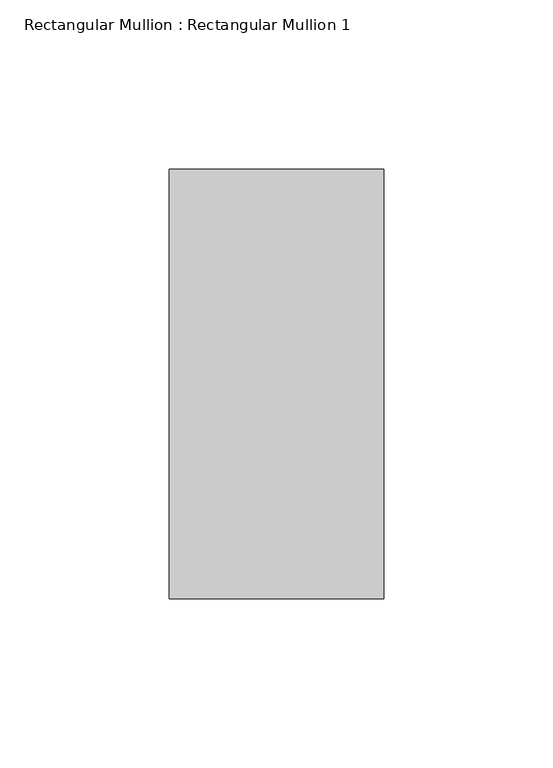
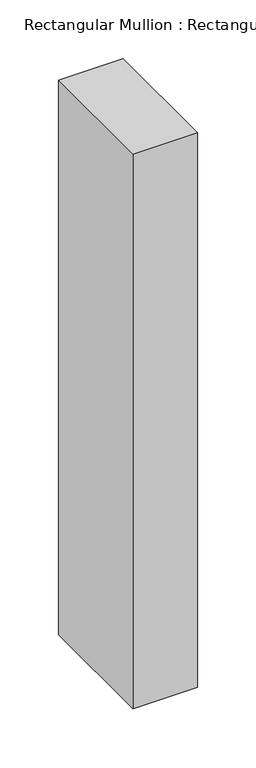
"""IFC4 building model written with IfcOpenShell, lengths in millimetres: member geometry, Rectangular Mullion : Rectangular Mullion 1."""

import ifcopenshell
import ifcopenshell.guid

model = None  # the IFC model being written
_history = None  # IfcOwnerHistory: only IFC2X3 demands one
_inside = {}  # id of a spatial element -> (the spatial element, [elements in it])
_under = {}  # id of a project, library or spatial element -> (it, [spatial elements below it])
_declared = {}  # id of a project -> (the project, [libraries it declares])
_typed = {}  # id of a type object -> (the type object, [elements of that type])
_made_of = {}  # id of a material, layer set ... -> (it, [elements and type objects made of it])


def new_model(schema):
    """Start an empty IFC model of exactly this schema.

    Asked for "IFC4X3", IfcOpenShell would pick the latest addendum, in which some entities
    have other attributes; the version numbers below select the first issue.
    IFC2X3 requires an IfcOwnerHistory on every rooted entity: one is made here for all.
    """
    global model, _history
    if schema == "IFC4X3":
        model = ifcopenshell.file(schema_version=(4, 3, 0, 0))
    else:
        model = ifcopenshell.file(schema=schema)
    _inside.clear()
    _under.clear()
    _declared.clear()
    _typed.clear()
    _made_of.clear()
    _history = None
    if model.schema == "IFC2X3":
        org = make("IfcOrganization", Name="unknown")
        user = make(
            "IfcPersonAndOrganization",
            ThePerson=make("IfcPerson", FamilyName="unknown"),
            TheOrganization=org,
        )
        app = make(
            "IfcApplication",
            ApplicationDeveloper=org,
            Version="unknown",
            ApplicationFullName="unknown",
            ApplicationIdentifier="unknown",
        )
        _history = make(
            "IfcOwnerHistory",
            OwningUser=user,
            OwningApplication=app,
            ChangeAction="ADDED",
            CreationDate=0,
        )
    return model


def make(cls, **values):
    """One entity of the class cls with the attributes given. An attribute that is None is left unset."""
    return model.create_entity(
        cls, **{name: value for name, value in values.items() if value is not None}
    )


def rooted(cls, **values):
    """An entity with a GlobalId (a new one), such as an element, a storey or a relation."""
    return make(cls, GlobalId=ifcopenshell.guid.new(), OwnerHistory=_history, **values)


def si_unit(unit_type, name, prefix=None):
    """IfcSIUnit, for example si_unit("LENGTHUNIT", "METRE", prefix="MILLI")."""
    return make("IfcSIUnit", UnitType=unit_type, Prefix=prefix, Name=name)


def assignment(units):
    """IfcUnitAssignment: the units of a project."""
    return None if units is None else make("IfcUnitAssignment", Units=units)


def point(xyz):
    """IfcCartesianPoint."""
    return None if xyz is None else make("IfcCartesianPoint", Coordinates=xyz)


def direction(xyz):
    """IfcDirection."""
    return None if xyz is None else make("IfcDirection", DirectionRatios=xyz)


def frame(location, z_axis=None, x_axis=None):
    """IfcAxis2Placement3D, a coordinate frame: its origin and axes. An axis left out is left unset."""
    return make(
        "IfcAxis2Placement3D",
        Location=point(location),
        Axis=direction(z_axis),
        RefDirection=direction(x_axis),
    )


def origin():
    """The frame at (0, 0, 0) with its axes left unset."""
    return frame((0.0, 0.0, 0.0))


def place(relative_to, where):
    """IfcLocalPlacement: puts the frame where relative to a parent placement (None: the world)."""
    return make(
        "IfcLocalPlacement", PlacementRelTo=relative_to, RelativePlacement=where
    )


def context(
    kind, dimensions, precision=None, world=None, true_north=None, identifier=None
):
    """IfcGeometricRepresentationContext, for example the 3D "Model" context."""
    return make(
        "IfcGeometricRepresentationContext",
        ContextIdentifier=identifier,
        ContextType=kind,
        CoordinateSpaceDimension=dimensions,
        Precision=precision,
        WorldCoordinateSystem=world,
        TrueNorth=true_north,
    )


def project(units=None, contexts=None):
    """IfcProject with its units and contexts."""
    return rooted(
        "IfcProject",
        Name="project",
        RepresentationContexts=contexts,
        UnitsInContext=assignment(units),
    )


def spatial(cls, under=None, at=None, **own):
    """A site, building, storey or space (cls), placed at a placement, below another one or the project."""
    s = rooted(cls, ObjectPlacement=at, **own)
    if under is not None:
        _under.setdefault(under.id(), (under, []))[1].append(s)
    return s


def polyline(points):
    """IfcPolyline through the points."""
    return make("IfcPolyline", Points=[point(p) for p in points])


def outline(outer, holes=None, kind="AREA"):
    """IfcArbitraryClosedProfileDef: a profile drawn as a closed curve; with holes, ...WithVoids."""
    if holes is None:
        return make("IfcArbitraryClosedProfileDef", ProfileType=kind, OuterCurve=outer)
    return make(
        "IfcArbitraryProfileDefWithVoids",
        ProfileType=kind,
        OuterCurve=outer,
        InnerCurves=holes,
    )


def extrude(swept, where, along, depth):
    """IfcExtrudedAreaSolid: the profile swept, set in the frame where, extruded along a direction by depth."""
    return make(
        "IfcExtrudedAreaSolid",
        SweptArea=swept,
        Position=where,
        ExtrudedDirection=direction(along),
        Depth=depth,
    )


def shape(context_of_items, identifier, shape_type, items):
    """IfcShapeRepresentation: the items that make up one representation, for example the "Body"."""
    return make(
        "IfcShapeRepresentation",
        ContextOfItems=context_of_items,
        RepresentationIdentifier=identifier,
        RepresentationType=shape_type,
        Items=items,
    )


def source(mapping_origin, context_of_items, identifier, shape_type, items):
    """IfcRepresentationMap: a shape defined once, which mapped items show again and again."""
    return make(
        "IfcRepresentationMap",
        MappingOrigin=mapping_origin,
        MappedRepresentation=shape(context_of_items, identifier, shape_type, items),
    )


def transform(
    local_origin,
    x_axis=None,
    y_axis=None,
    z_axis=None,
    scale=None,
    scale2=None,
    scale3=None,
    uniform=True,
):
    """IfcCartesianTransformationOperator3D, or its non-uniform kind. x_axis, y_axis, z_axis: its Axis1, 2, 3."""
    if uniform:
        return make(
            "IfcCartesianTransformationOperator3D",
            Axis1=direction(x_axis),
            Axis2=direction(y_axis),
            LocalOrigin=point(local_origin),
            Scale=scale,
            Axis3=direction(z_axis),
        )
    return make(
        "IfcCartesianTransformationOperator3DnonUniform",
        Axis1=direction(x_axis),
        Axis2=direction(y_axis),
        LocalOrigin=point(local_origin),
        Scale=scale,
        Axis3=direction(z_axis),
        Scale2=scale2,
        Scale3=scale3,
    )


def mapped(mapping_source, mapping_target):
    """IfcMappedItem: shows the shape of a source again, moved by a transform."""
    return make(
        "IfcMappedItem", MappingSource=mapping_source, MappingTarget=mapping_target
    )


def made_of(thing, what):
    """Note that an element or type object is made of a material, layer set ...; save() writes the relation."""
    if what is not None:
        _made_of.setdefault(what.id(), (what, []))[1].append(thing)
    return thing


def element(
    cls,
    number,
    at=None,
    inside=None,
    cuts=None,
    type_object=None,
    material=None,
    context=None,
    identifier="Body",
    shape_type=None,
    held_by="IfcProductDefinitionShape",
    body=None,
    shapes=None,
    **own,
):
    """One element of the class cls, such as IfcWall. Its Tag is "e" and its number.

    at: its placement. inside: the storey or other place that contains it. cuts: it is an
    opening in that element (IfcRelVoidsElement). A single representation is given by context,
    identifier, shape_type and body (its items); several are given by shapes. held_by: the class
    of the entity that holds the representations. save() writes the other relations.
    """
    e = rooted(cls, Tag="e%d" % number, ObjectPlacement=at, **own)
    if body is not None:
        shapes = [shape(context, identifier, shape_type, body)]
    if shapes is not None:
        e.Representation = make(held_by, Representations=shapes)
    if inside is not None:
        _inside.setdefault(inside.id(), (inside, []))[1].append(e)
    if cuts is not None:
        rooted(
            "IfcRelVoidsElement", RelatingBuildingElement=cuts, RelatedOpeningElement=e
        )
    if type_object is not None:
        _typed.setdefault(type_object.id(), (type_object, []))[1].append(e)
    return made_of(e, material)


def aggregate(whole, parts):
    """IfcRelAggregates: a whole, such as a stair, and the parts it consists of."""
    return rooted("IfcRelAggregates", RelatingObject=whole, RelatedObjects=parts)


def save(model, path):
    """Write the relations noted so far, then the file.

    IfcRelAggregates (storeys below a building ...), IfcRelContainedInSpatialStructure (elements
    in a storey), IfcRelDefinesByType, IfcRelAssociatesMaterial and IfcRelDeclares: one each for
    every whole, place, type object, material and project.
    """
    for whole, parts in _under.values():
        aggregate(whole, parts)
    for where, things in _inside.values():
        rooted(
            "IfcRelContainedInSpatialStructure",
            RelatedElements=things,
            RelatingStructure=where,
        )
    for kind, things in _typed.values():
        rooted("IfcRelDefinesByType", RelatedObjects=things, RelatingType=kind)
    for what, things in _made_of.values():
        rooted("IfcRelAssociatesMaterial", RelatedObjects=things, RelatingMaterial=what)
    for by, libraries in _declared.values():
        rooted("IfcRelDeclares", RelatingContext=by, RelatedDefinitions=libraries)
    model.write(path)


def rectangular_mullion_rectangular_mullion_1_b5e65c95(model_context):
    return source(origin(), model_context, "Body", "SweptSolid", [
        extrude(outline(polyline([(31.75, 63.5), (31.75, -63.5), (-31.75, -63.5), (-31.75, 63.5), (31.75, 63.5)])), frame((0.0, 0.0, -577.85), z_axis=(0.0, 0.0, 1.0), x_axis=(1.0, 0.0, 0.0)), (0.0, 0.0, 1.0), 577.85),
    ])


if __name__ == "__main__":
    model = new_model("IFC4")
    model_context = context("Model", 3, world=origin())
    ifc_project = project(units=[si_unit("LENGTHUNIT", "METRE", prefix="MILLI")], contexts=[model_context])
    site = spatial("IfcSite", under=ifc_project)
    building = spatial("IfcBuilding", under=site)
    placement = place(None, origin())
    rectangular_mullion_rectangular_mullion_1_shape = rectangular_mullion_rectangular_mullion_1_b5e65c95(model_context)
    element("IfcMember", 1, ObjectType="Rectangular Mullion : Rectangular Mullion 1", at=placement, inside=building, context=model_context, shape_type="MappedRepresentation", body=[
        mapped(rectangular_mullion_rectangular_mullion_1_shape, transform((0.0, 0.0, 0.0), x_axis=(1.0, 0.0, 0.0), y_axis=(0.0, 1.0, 0.0), z_axis=(0.0, 0.0, 1.0))),
    ])
    save(model, "model.ifc")
